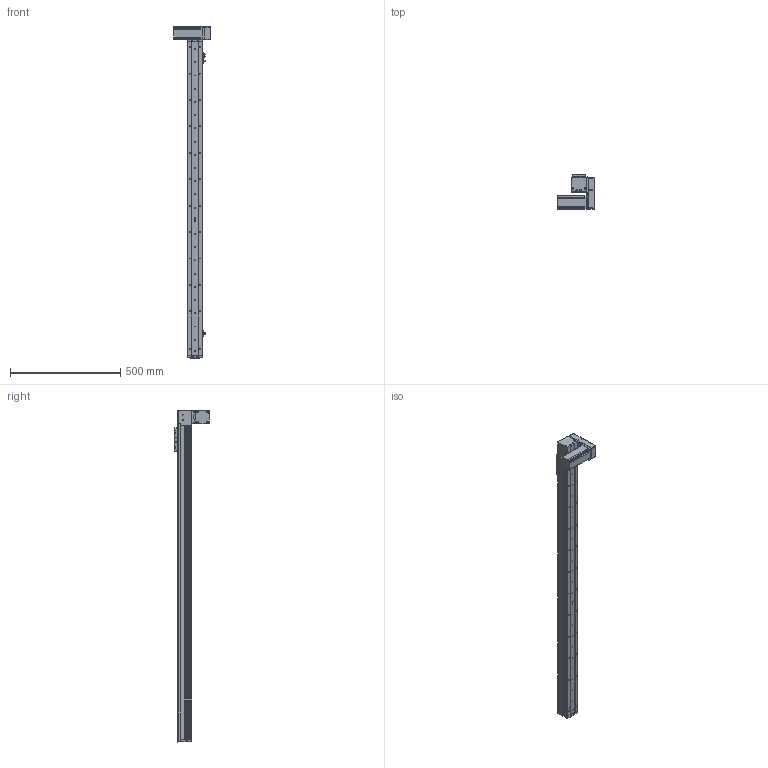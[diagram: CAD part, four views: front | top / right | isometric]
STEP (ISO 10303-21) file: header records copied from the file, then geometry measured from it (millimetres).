
FILE_DESCRIPTION (( 'STEP AP214' ), '1' );
FILE_NAME ('KSD68BS-S1250-MLD-CR.STEP', '2019-11-07T05:49:08', ( '微软用户' ), ( '微软中国' ), 'SwSTEP 2.0', 'SolidWorks 2014', '' );
FILE_SCHEMA (( 'AUTOMOTIVE_DESIGN' ));
Length unit declared in the file: millimetre
Products named in the file (14): 68宽单导轨全封闭丝杆传动安装板1防护罩; KSD68BS 1250行程侧板全封闭; 68宽单导轨全封闭同步带端板; 68单导轨全封闭同步带电机座左; 68单导轨全封闭同步带安装板; 悵誘欶奻狟殏; 68宽马达安装板连板上折同步带; 感应片68宽全封闭; 68遵裔啣揤啣1; U倰嫖萇EEㄜSX672; 台达ECMA－C20604AS伺服电机（400W); KSD68BS 1250行程底板全封闭; KSD68BS-S1250-MLD-CR; KSD68BS 1250行程盖板全封闭
Assembly tree (17 placements, depth 2):
  KSD68BS-S1250-MLD-CR
    KSD68BS 1250行程底板全封闭
    台达ECMA－C20604AS伺服电机（400W)
    U倰嫖萇EEㄜSX672  x3
    感应片68宽全封闭
    68宽马达安装板连板上折同步带
    悵誘欶奻狟殏
    68单导轨全封闭同步带安装板
    68单导轨全封闭同步带电机座左
    68宽单导轨全封闭同步带端板
    KSD68BS 1250行程侧板全封闭  x2
    68宽单导轨全封闭丝杆传动安装板1防护罩
    68遵裔啣揤啣1  x2
    KSD68BS 1250行程盖板全封闭
Bounding box: 167.2 x 155.5 x 1508.1 mm (x, y, z)
Volume: 2873101.4 mm3; surface area: 1130963.1 mm2
Topology: 18 solids, 18 shells, 1549 faces, 4431 edges, 2832 vertices
Faces by surface type: cylinder 748, plane 629, cone 172
Entity records: 49763 total; most frequent: CARTESIAN_POINT 8631, DIRECTION 7422, ORIENTED_EDGE 7106, EDGE_CURVE 3553, AXIS2_PLACEMENT_3D 2691, VERTEX_POINT 2330, LINE 2040, VECTOR 2040
